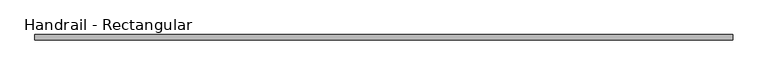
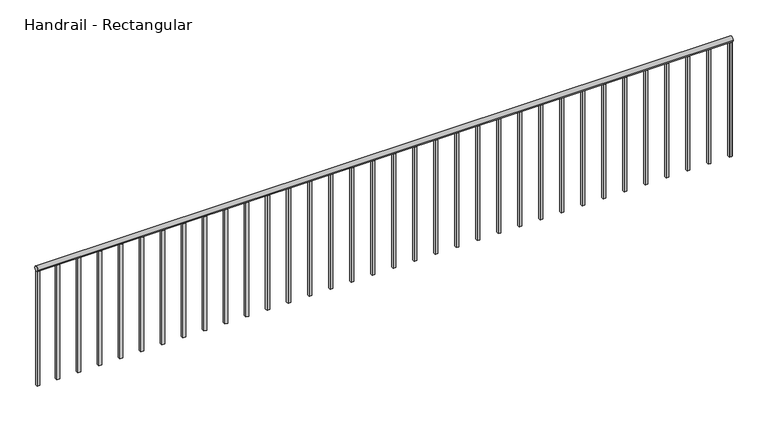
"""IFC4 building model written with IfcOpenShell, lengths in millimetres: railing geometry, Handrail - Rectangular."""

from ifc_helpers import new_model, si_unit, point, frame, frame_2d, origin, place, context, project, spatial, polyline, circle_curve, trimmed, segment, composite_curve, outline, extrude, source, transform, mapped, element, save


def handrail_rectangular_774f5da6(model_context):
    return source(origin(), model_context, "Body", "SweptSolid", [
        extrude(outline(composite_curve([segment(trimmed(circle_curve(frame_2d((-35553.1683133, 3943.35)), 19.05), [point((-35572.2183133, 3943.35))], [point((-35534.1183133, 3943.35))], False, "CARTESIAN"), True, "CONTINUOUS"), segment(trimmed(circle_curve(frame_2d((-35553.1683133, 3943.35)), 19.05), [point((-35534.1183133, 3943.35))], [point((-35572.2183133, 3943.35))], False, "CARTESIAN"), True, "CONTINUOUS")], self_intersect=False)), frame((-11164.8589563, 0.0, 0.0), z_axis=(1.0, 0.0, 0.0), x_axis=(0.0, 1.0, 0.0)), (0.0, 0.0, 1.0), 5041.9),
        extrude(outline(polyline([(-6145.1839563, -35543.6433133), (-6126.1339563, -35543.6433133), (-6126.1339563, -35562.6933133), (-6145.1839563, -35562.6933133), (-6145.1839563, -35543.6433133)])), frame((0.0, 0.0, 3048.0), z_axis=(0.0, 0.0, 1.0), x_axis=(1.0, 0.0, 0.0)), (0.0, 0.0, 1.0), 876.3),
        extrude(outline(polyline([(-6297.5839563, -35543.6433133), (-6278.5339563, -35543.6433133), (-6278.5339563, -35562.6933133), (-6297.5839563, -35562.6933133), (-6297.5839563, -35543.6433133)])), frame((0.0, 0.0, 3048.0), z_axis=(0.0, 0.0, 1.0), x_axis=(1.0, 0.0, 0.0)), (0.0, 0.0, 1.0), 876.3),
        extrude(outline(polyline([(-6449.9839563, -35543.6433133), (-6430.9339563, -35543.6433133), (-6430.9339563, -35562.6933133), (-6449.9839563, -35562.6933133), (-6449.9839563, -35543.6433133)])), frame((0.0, 0.0, 3048.0), z_axis=(0.0, 0.0, 1.0), x_axis=(1.0, 0.0, 0.0)), (0.0, 0.0, 1.0), 876.3),
        extrude(outline(polyline([(-6602.3839563, -35543.6433133), (-6583.3339563, -35543.6433133), (-6583.3339563, -35562.6933133), (-6602.3839563, -35562.6933133), (-6602.3839563, -35543.6433133)])), frame((0.0, 0.0, 3048.0), z_axis=(0.0, 0.0, 1.0), x_axis=(1.0, 0.0, 0.0)), (0.0, 0.0, 1.0), 876.3),
        extrude(outline(polyline([(-6754.7839563, -35543.6433133), (-6735.7339563, -35543.6433133), (-6735.7339563, -35562.6933133), (-6754.7839563, -35562.6933133), (-6754.7839563, -35543.6433133)])), frame((0.0, 0.0, 3048.0), z_axis=(0.0, 0.0, 1.0), x_axis=(1.0, 0.0, 0.0)), (0.0, 0.0, 1.0), 876.3),
        extrude(outline(polyline([(-6907.1839563, -35543.6433133), (-6888.1339563, -35543.6433133), (-6888.1339563, -35562.6933133), (-6907.1839563, -35562.6933133), (-6907.1839563, -35543.6433133)])), frame((0.0, 0.0, 3048.0), z_axis=(0.0, 0.0, 1.0), x_axis=(1.0, 0.0, 0.0)), (0.0, 0.0, 1.0), 876.3),
        extrude(outline(polyline([(-7059.5839563, -35543.6433133), (-7040.5339563, -35543.6433133), (-7040.5339563, -35562.6933133), (-7059.5839563, -35562.6933133), (-7059.5839563, -35543.6433133)])), frame((0.0, 0.0, 3048.0), z_axis=(0.0, 0.0, 1.0), x_axis=(1.0, 0.0, 0.0)), (0.0, 0.0, 1.0), 876.3),
        extrude(outline(polyline([(-7211.9839563, -35543.6433133), (-7192.9339563, -35543.6433133), (-7192.9339563, -35562.6933133), (-7211.9839563, -35562.6933133), (-7211.9839563, -35543.6433133)])), frame((0.0, 0.0, 3048.0), z_axis=(0.0, 0.0, 1.0), x_axis=(1.0, 0.0, 0.0)), (0.0, 0.0, 1.0), 876.3),
        extrude(outline(polyline([(-7364.3839563, -35543.6433133), (-7345.3339563, -35543.6433133), (-7345.3339563, -35562.6933133), (-7364.3839563, -35562.6933133), (-7364.3839563, -35543.6433133)])), frame((0.0, 0.0, 3048.0), z_axis=(0.0, 0.0, 1.0), x_axis=(1.0, 0.0, 0.0)), (0.0, 0.0, 1.0), 876.3),
        extrude(outline(polyline([(-7516.7839563, -35543.6433133), (-7497.7339563, -35543.6433133), (-7497.7339563, -35562.6933133), (-7516.7839563, -35562.6933133), (-7516.7839563, -35543.6433133)])), frame((0.0, 0.0, 3048.0), z_axis=(0.0, 0.0, 1.0), x_axis=(1.0, 0.0, 0.0)), (0.0, 0.0, 1.0), 876.3),
        extrude(outline(polyline([(-7669.1839563, -35543.6433133), (-7650.1339563, -35543.6433133), (-7650.1339563, -35562.6933133), (-7669.1839563, -35562.6933133), (-7669.1839563, -35543.6433133)])), frame((0.0, 0.0, 3048.0), z_axis=(0.0, 0.0, 1.0), x_axis=(1.0, 0.0, 0.0)), (0.0, 0.0, 1.0), 876.3),
        extrude(outline(polyline([(-7821.5839563, -35543.6433133), (-7802.5339563, -35543.6433133), (-7802.5339563, -35562.6933133), (-7821.5839563, -35562.6933133), (-7821.5839563, -35543.6433133)])), frame((0.0, 0.0, 3048.0), z_axis=(0.0, 0.0, 1.0), x_axis=(1.0, 0.0, 0.0)), (0.0, 0.0, 1.0), 876.3),
        extrude(outline(polyline([(-7973.9839563, -35543.6433133), (-7954.9339563, -35543.6433133), (-7954.9339563, -35562.6933133), (-7973.9839563, -35562.6933133), (-7973.9839563, -35543.6433133)])), frame((0.0, 0.0, 3048.0), z_axis=(0.0, 0.0, 1.0), x_axis=(1.0, 0.0, 0.0)), (0.0, 0.0, 1.0), 876.3),
        extrude(outline(polyline([(-8126.3839563, -35543.6433133), (-8107.3339563, -35543.6433133), (-8107.3339563, -35562.6933133), (-8126.3839563, -35562.6933133), (-8126.3839563, -35543.6433133)])), frame((0.0, 0.0, 3048.0), z_axis=(0.0, 0.0, 1.0), x_axis=(1.0, 0.0, 0.0)), (0.0, 0.0, 1.0), 876.3),
        extrude(outline(polyline([(-8278.7839563, -35543.6433133), (-8259.7339563, -35543.6433133), (-8259.7339563, -35562.6933133), (-8278.7839563, -35562.6933133), (-8278.7839563, -35543.6433133)])), frame((0.0, 0.0, 3048.0), z_axis=(0.0, 0.0, 1.0), x_axis=(1.0, 0.0, 0.0)), (0.0, 0.0, 1.0), 876.3),
        extrude(outline(polyline([(-8431.1839563, -35543.6433133), (-8412.1339563, -35543.6433133), (-8412.1339563, -35562.6933133), (-8431.1839563, -35562.6933133), (-8431.1839563, -35543.6433133)])), frame((0.0, 0.0, 3048.0), z_axis=(0.0, 0.0, 1.0), x_axis=(1.0, 0.0, 0.0)), (0.0, 0.0, 1.0), 876.3),
        extrude(outline(polyline([(-8583.5839563, -35543.6433133), (-8564.5339563, -35543.6433133), (-8564.5339563, -35562.6933133), (-8583.5839563, -35562.6933133), (-8583.5839563, -35543.6433133)])), frame((0.0, 0.0, 3048.0), z_axis=(0.0, 0.0, 1.0), x_axis=(1.0, 0.0, 0.0)), (0.0, 0.0, 1.0), 876.3),
        extrude(outline(polyline([(-8735.9839563, -35543.6433133), (-8716.9339563, -35543.6433133), (-8716.9339563, -35562.6933133), (-8735.9839563, -35562.6933133), (-8735.9839563, -35543.6433133)])), frame((0.0, 0.0, 3048.0), z_axis=(0.0, 0.0, 1.0), x_axis=(1.0, 0.0, 0.0)), (0.0, 0.0, 1.0), 876.3),
        extrude(outline(polyline([(-8888.3839563, -35543.6433133), (-8869.3339563, -35543.6433133), (-8869.3339563, -35562.6933133), (-8888.3839563, -35562.6933133), (-8888.3839563, -35543.6433133)])), frame((0.0, 0.0, 3048.0), z_axis=(0.0, 0.0, 1.0), x_axis=(1.0, 0.0, 0.0)), (0.0, 0.0, 1.0), 876.3),
        extrude(outline(polyline([(-9040.7839563, -35543.6433133), (-9021.7339563, -35543.6433133), (-9021.7339563, -35562.6933133), (-9040.7839563, -35562.6933133), (-9040.7839563, -35543.6433133)])), frame((0.0, 0.0, 3048.0), z_axis=(0.0, 0.0, 1.0), x_axis=(1.0, 0.0, 0.0)), (0.0, 0.0, 1.0), 876.3),
        extrude(outline(polyline([(-9193.1839563, -35543.6433133), (-9174.1339563, -35543.6433133), (-9174.1339563, -35562.6933133), (-9193.1839563, -35562.6933133), (-9193.1839563, -35543.6433133)])), frame((0.0, 0.0, 3048.0), z_axis=(0.0, 0.0, 1.0), x_axis=(1.0, 0.0, 0.0)), (0.0, 0.0, 1.0), 876.3),
        extrude(outline(polyline([(-9345.5839563, -35543.6433133), (-9326.5339563, -35543.6433133), (-9326.5339563, -35562.6933133), (-9345.5839563, -35562.6933133), (-9345.5839563, -35543.6433133)])), frame((0.0, 0.0, 3048.0), z_axis=(0.0, 0.0, 1.0), x_axis=(1.0, 0.0, 0.0)), (0.0, 0.0, 1.0), 876.3),
        extrude(outline(polyline([(-9497.9839563, -35543.6433133), (-9478.9339563, -35543.6433133), (-9478.9339563, -35562.6933133), (-9497.9839563, -35562.6933133), (-9497.9839563, -35543.6433133)])), frame((0.0, 0.0, 3048.0), z_axis=(0.0, 0.0, 1.0), x_axis=(1.0, 0.0, 0.0)), (0.0, 0.0, 1.0), 876.3),
        extrude(outline(polyline([(-9650.3839563, -35543.6433133), (-9631.3339563, -35543.6433133), (-9631.3339563, -35562.6933133), (-9650.3839563, -35562.6933133), (-9650.3839563, -35543.6433133)])), frame((0.0, 0.0, 3048.0), z_axis=(0.0, 0.0, 1.0), x_axis=(1.0, 0.0, 0.0)), (0.0, 0.0, 1.0), 876.3),
        extrude(outline(polyline([(-9802.7839563, -35543.6433133), (-9783.7339563, -35543.6433133), (-9783.7339563, -35562.6933133), (-9802.7839563, -35562.6933133), (-9802.7839563, -35543.6433133)])), frame((0.0, 0.0, 3048.0), z_axis=(0.0, 0.0, 1.0), x_axis=(1.0, 0.0, 0.0)), (0.0, 0.0, 1.0), 876.3),
        extrude(outline(polyline([(-9955.1839563, -35543.6433133), (-9936.1339563, -35543.6433133), (-9936.1339563, -35562.6933133), (-9955.1839563, -35562.6933133), (-9955.1839563, -35543.6433133)])), frame((0.0, 0.0, 3048.0), z_axis=(0.0, 0.0, 1.0), x_axis=(1.0, 0.0, 0.0)), (0.0, 0.0, 1.0), 876.3),
        extrude(outline(polyline([(-10107.5839563, -35543.6433133), (-10088.5339563, -35543.6433133), (-10088.5339563, -35562.6933133), (-10107.5839563, -35562.6933133), (-10107.5839563, -35543.6433133)])), frame((0.0, 0.0, 3048.0), z_axis=(0.0, 0.0, 1.0), x_axis=(1.0, 0.0, 0.0)), (0.0, 0.0, 1.0), 876.3),
        extrude(outline(polyline([(-10259.9839563, -35543.6433133), (-10240.9339563, -35543.6433133), (-10240.9339563, -35562.6933133), (-10259.9839563, -35562.6933133), (-10259.9839563, -35543.6433133)])), frame((0.0, 0.0, 3048.0), z_axis=(0.0, 0.0, 1.0), x_axis=(1.0, 0.0, 0.0)), (0.0, 0.0, 1.0), 876.3),
        extrude(outline(polyline([(-10412.3839563, -35543.6433133), (-10393.3339563, -35543.6433133), (-10393.3339563, -35562.6933133), (-10412.3839563, -35562.6933133), (-10412.3839563, -35543.6433133)])), frame((0.0, 0.0, 3048.0), z_axis=(0.0, 0.0, 1.0), x_axis=(1.0, 0.0, 0.0)), (0.0, 0.0, 1.0), 876.3),
        extrude(outline(polyline([(-10564.7839563, -35543.6433133), (-10545.7339563, -35543.6433133), (-10545.7339563, -35562.6933133), (-10564.7839563, -35562.6933133), (-10564.7839563, -35543.6433133)])), frame((0.0, 0.0, 3048.0), z_axis=(0.0, 0.0, 1.0), x_axis=(1.0, 0.0, 0.0)), (0.0, 0.0, 1.0), 876.3),
        extrude(outline(polyline([(-10717.1839563, -35543.6433133), (-10698.1339563, -35543.6433133), (-10698.1339563, -35562.6933133), (-10717.1839563, -35562.6933133), (-10717.1839563, -35543.6433133)])), frame((0.0, 0.0, 3048.0), z_axis=(0.0, 0.0, 1.0), x_axis=(1.0, 0.0, 0.0)), (0.0, 0.0, 1.0), 876.3),
        extrude(outline(polyline([(-10869.5839563, -35543.6433133), (-10850.5339563, -35543.6433133), (-10850.5339563, -35562.6933133), (-10869.5839563, -35562.6933133), (-10869.5839563, -35543.6433133)])), frame((0.0, 0.0, 3048.0), z_axis=(0.0, 0.0, 1.0), x_axis=(1.0, 0.0, 0.0)), (0.0, 0.0, 1.0), 876.3),
        extrude(outline(polyline([(-11021.9839563, -35543.6433133), (-11002.9339563, -35543.6433133), (-11002.9339563, -35562.6933133), (-11021.9839563, -35562.6933133), (-11021.9839563, -35543.6433133)])), frame((0.0, 0.0, 3048.0), z_axis=(0.0, 0.0, 1.0), x_axis=(1.0, 0.0, 0.0)), (0.0, 0.0, 1.0), 876.3),
        extrude(outline(polyline([(-6142.0089563, -35543.6433133), (-6122.9589563, -35543.6433133), (-6122.9589563, -35562.6933133), (-6142.0089563, -35562.6933133), (-6142.0089563, -35543.6433133)])), frame((0.0, 0.0, 3048.0), z_axis=(0.0, 0.0, 1.0), x_axis=(1.0, 0.0, 0.0)), (0.0, 0.0, 1.0), 876.3),
        extrude(outline(polyline([(-11164.8589563, -35543.6433133), (-11145.8089563, -35543.6433133), (-11145.8089563, -35562.6933133), (-11164.8589563, -35562.6933133), (-11164.8589563, -35543.6433133)])), frame((0.0, 0.0, 3048.0), z_axis=(0.0, 0.0, 1.0), x_axis=(1.0, 0.0, 0.0)), (0.0, 0.0, 1.0), 876.3),
    ])


if __name__ == "__main__":
    model = new_model("IFC4")
    model_context = context("Model", 3, world=origin())
    ifc_project = project(units=[si_unit("LENGTHUNIT", "METRE", prefix="MILLI")], contexts=[model_context])
    site = spatial("IfcSite", under=ifc_project)
    building = spatial("IfcBuilding", under=site)
    placement = place(None, origin())
    handrail_rectangular_shape = handrail_rectangular_774f5da6(model_context)
    element("IfcRailing", 1, ObjectType="Handrail - Rectangular", at=placement, inside=building, context=model_context, shape_type="MappedRepresentation", body=[
        mapped(handrail_rectangular_shape, transform((0.0, 0.0, 0.0), x_axis=(1.0, 0.0, 0.0), y_axis=(0.0, 1.0, 0.0), z_axis=(0.0, 0.0, 1.0))),
    ])
    save(model, "model.ifc")
